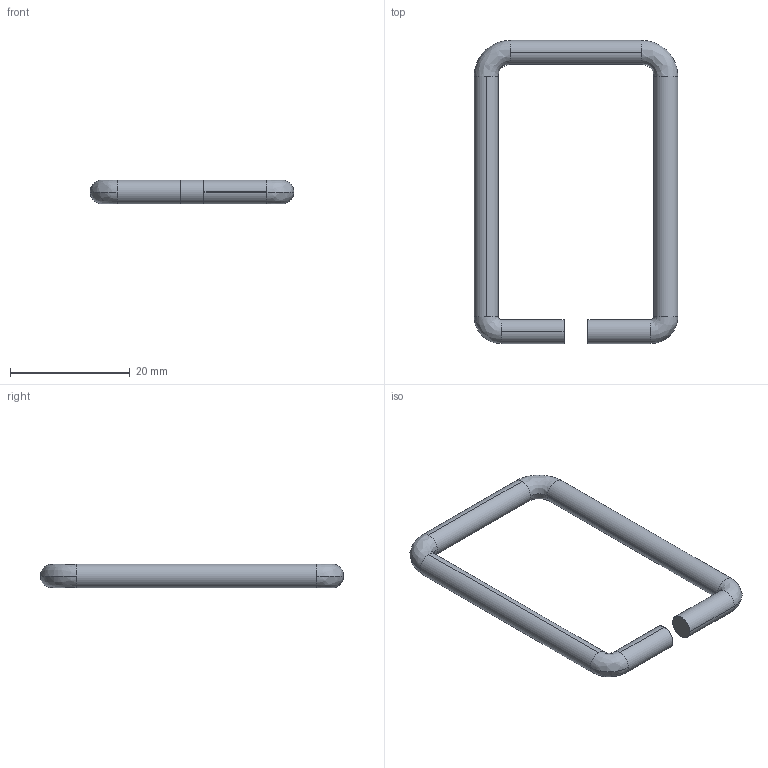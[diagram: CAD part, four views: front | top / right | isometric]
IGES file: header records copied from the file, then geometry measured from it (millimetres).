
Start section: SolidWorks IGES file using analytic representation for surfaces
Global section: file name: C:\Users\cbrechard\Desktop\GO 3029\24.201.01.IGS; native system: SolidWorks 2008; preprocessor: SolidWorks 2008; author: cbrechard; date: 131022.115919; units: millimetre
Bounding box: 34 x 50.6 x 4 mm (x, y, z)
Surface area: 1830.1 mm2 (no closed solid volume)
Topology: 0 solids, 0 shells, 20 faces, 156 edges, 156 vertices
Faces by surface type: bspline 10, revolution 10
